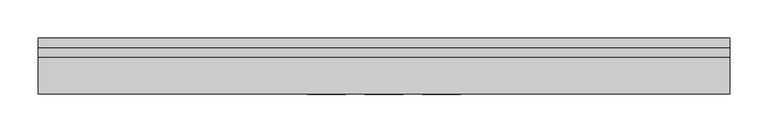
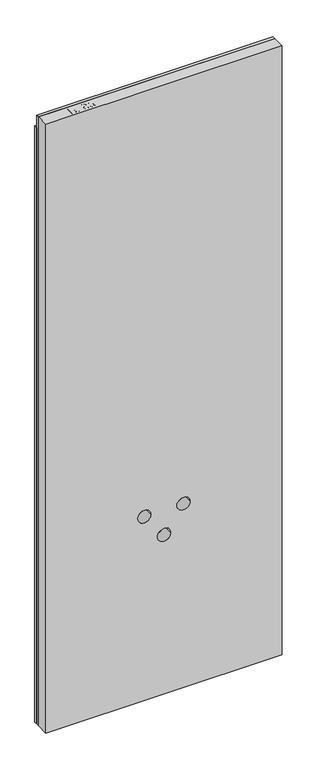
"""IFC4 building model written with IfcOpenShell, lengths in millimetres: proxy geometry, ParedeLavatório_Blufab : Parede Lavatório - Largura 90 cm."""

from ifc_helpers import new_model, si_unit, point, frame, frame_2d, origin, origin_with_axes, place, context, project, spatial, polyline, circle_curve, trimmed, segment, composite_curve, outline, extrude, source, transform, mapped, element, save


def generic_models_d659e27f(model_context):
    return source(origin(), model_context, "Body", "SweptSolid", [
        extrude(outline(polyline([(2450.0, 0.0), (0.0, 0.0), (0.0, 900.0), (2450.0, 900.0), (2450.0, 0.0)]), holes=[composite_curve([segment(trimmed(circle_curve(frame_2d((640.0, 450.0)), 25.0), [point((640.0, 425.0))], [point((640.0, 475.0))], True, "CARTESIAN"), True, "CONTINUOUS"), segment(trimmed(circle_curve(frame_2d((640.0, 450.0)), 25.0), [point((640.0, 475.0))], [point((640.0, 425.0))], True, "CARTESIAN"), True, "CONTINUOUS")], self_intersect=False), composite_curve([segment(trimmed(circle_curve(frame_2d((740.0, 525.0)), 25.0), [point((740.0, 500.0))], [point((740.0, 550.0))], True, "CARTESIAN"), True, "CONTINUOUS"), segment(trimmed(circle_curve(frame_2d((740.0, 525.0)), 25.0), [point((740.0, 550.0))], [point((740.0, 500.0))], True, "CARTESIAN"), True, "CONTINUOUS")], self_intersect=False), composite_curve([segment(trimmed(circle_curve(frame_2d((740.0, 375.0)), 25.0), [point((740.0, 350.0))], [point((740.0, 400.0))], True, "CARTESIAN"), True, "CONTINUOUS"), segment(trimmed(circle_curve(frame_2d((740.0, 375.0)), 25.0), [point((740.0, 400.0))], [point((740.0, 350.0))], True, "CARTESIAN"), True, "CONTINUOUS")], self_intersect=False)]), frame((0.0, -73.0, 0.0), z_axis=(0.0, 1.0, 0.0), x_axis=(0.0, 0.0, 1.0)), (0.0, 0.0, 1.0), 47.9873197),
        extrude(outline(polyline([(2450.0, 0.0), (0.0, 0.0), (0.0, 900.0), (2450.0, 900.0), (2450.0, 0.0)]), holes=[composite_curve([segment(trimmed(circle_curve(frame_2d((640.0, 450.0)), 25.0), [point((640.0, 425.0))], [point((640.0, 475.0))], True, "CARTESIAN"), True, "CONTINUOUS"), segment(trimmed(circle_curve(frame_2d((640.0, 450.0)), 25.0), [point((640.0, 475.0))], [point((640.0, 425.0))], True, "CARTESIAN"), True, "CONTINUOUS")], self_intersect=False), composite_curve([segment(trimmed(circle_curve(frame_2d((740.0, 525.0)), 25.0), [point((740.0, 500.0))], [point((740.0, 550.0))], True, "CARTESIAN"), True, "CONTINUOUS"), segment(trimmed(circle_curve(frame_2d((740.0, 525.0)), 25.0), [point((740.0, 550.0))], [point((740.0, 500.0))], True, "CARTESIAN"), True, "CONTINUOUS")], self_intersect=False), composite_curve([segment(trimmed(circle_curve(frame_2d((740.0, 375.0)), 25.0), [point((740.0, 350.0))], [point((740.0, 400.0))], True, "CARTESIAN"), True, "CONTINUOUS"), segment(trimmed(circle_curve(frame_2d((740.0, 375.0)), 25.0), [point((740.0, 400.0))], [point((740.0, 350.0))], True, "CARTESIAN"), True, "CONTINUOUS")], self_intersect=False)]), frame((0.0, -25.0126803, 0.0), z_axis=(0.0, 1.0, 0.0), x_axis=(0.0, 0.0, 1.0)), (0.0, 0.0, 1.0), 12.5),
        extrude(outline(polyline([(2400.0, 0.0), (0.0, 0.0), (0.0, 900.0), (2400.0, 900.0), (2400.0, 0.0)]), holes=[composite_curve([segment(trimmed(circle_curve(frame_2d((640.0, 450.0)), 25.0), [point((640.0, 425.0))], [point((640.0, 475.0))], True, "CARTESIAN"), True, "CONTINUOUS"), segment(trimmed(circle_curve(frame_2d((640.0, 450.0)), 25.0), [point((640.0, 475.0))], [point((640.0, 425.0))], True, "CARTESIAN"), True, "CONTINUOUS")], self_intersect=False), composite_curve([segment(trimmed(circle_curve(frame_2d((740.0, 525.0)), 25.0), [point((740.0, 500.0))], [point((740.0, 550.0))], True, "CARTESIAN"), True, "CONTINUOUS"), segment(trimmed(circle_curve(frame_2d((740.0, 525.0)), 25.0), [point((740.0, 550.0))], [point((740.0, 500.0))], True, "CARTESIAN"), True, "CONTINUOUS")], self_intersect=False), composite_curve([segment(trimmed(circle_curve(frame_2d((740.0, 375.0)), 25.0), [point((740.0, 350.0))], [point((740.0, 400.0))], True, "CARTESIAN"), True, "CONTINUOUS"), segment(trimmed(circle_curve(frame_2d((740.0, 375.0)), 25.0), [point((740.0, 400.0))], [point((740.0, 350.0))], True, "CARTESIAN"), True, "CONTINUOUS")], self_intersect=False)]), frame((0.0, -12.5, 0.0), z_axis=(0.0, 1.0, 0.0), x_axis=(0.0, 0.0, 1.0)), (0.0, 0.0, 1.0), 12.5),
        extrude(outline(polyline([(104.7946604, -34.0997617), (108.5617721, -34.0997617), (108.5617721, -46.3428745), (116.2210752, -46.3428745), (124.9729879, -49.0063401), (127.3973302, -55.5178514), (126.4996981, -59.6270933), (124.1268593, -62.5407187), (120.4664334, -63.9497068), (115.9635578, -64.2366547), (104.7946604, -64.2366547), (104.7946604, -34.0997617)]), holes=[polyline([(108.5617721, -50.1099861), (108.5617721, -60.4695431), (116.3535127, -60.4695431), (120.1206244, -60.2120257), (122.6626889, -58.5050532), (123.6302186, -55.3854139), (121.9894649, -51.4932224), (116.4418044, -50.1099861), (108.5617721, -50.1099861)])]), origin_with_axes(), (0.0, 0.0, 1.0), 2450.0),
        extrude(outline(polyline([(132.5771087, -34.0997617), (151.4126669, -34.0997617), (151.4126669, -37.8668733), (136.3442203, -37.8668733), (136.3442203, -64.2366547), (132.5771087, -64.2366547), (132.5771087, -34.0997617)])), origin_with_axes(), (0.0, 0.0, 1.0), 2450.0),
        extrude(outline(polyline([(154.7088895, -41.6339849), (157.4091434, -35.7294789), (163.199606, -33.6288727), (169.0158203, -35.4094216), (172.7571802, -40.5928789), (174.0153366, -49.7421041), (172.7535014, -58.1739594), (169.0599662, -62.6621198), (163.6925679, -64.2366547), (156.9345756, -61.4775398), (154.2380006, -54.1934763), (156.8094957, -47.1374996), (163.1039567, -44.4593187), (167.2352715, -45.555607), (170.2702979, -47.6746073), (169.7258326, -43.3041692), (168.4934279, -40.0300194), (166.4259311, -38.1133543), (163.3761893, -37.3959844), (160.1682583, -38.5106668), (158.4760012, -42.1048739), (154.7088895, -41.6339849)]), holes=[polyline([(170.248225, -54.2817679), (168.5449314, -49.8340746), (164.200245, -48.2264303), (159.6752965, -49.8340746), (158.0051122, -54.0095353), (159.7709458, -58.6706001), (164.303252, -60.4695431), (168.6221866, -58.7993588), (170.248225, -54.2817679)])]), origin_with_axes(), (0.0, 0.0, 1.0), 2450.0),
        extrude(outline(polyline([(177.3115593, -48.9254061), (180.3134764, -36.4983523), (187.2002274, -33.6288727), (192.7147785, -35.2806629), (195.992607, -40.2912157), (197.0888954, -48.9254061), (196.4046349, -56.0071345), (194.6388013, -60.4658643), (191.600096, -63.2654463), (187.2002274, -64.2366547), (181.7077492, -62.595901), (178.4188841, -57.5963847), (177.3115593, -48.9254061)]), holes=[polyline([(181.078671, -48.9327637), (182.9033656, -58.4535498), (187.1560815, -60.4695431), (191.6148113, -58.1813171), (193.3217838, -48.9327637), (191.5559502, -39.5848822), (187.2002274, -37.3959844), (182.8445045, -39.5775246), (181.078671, -48.9327637)])]), origin_with_axes(), (0.0, 0.0, 1.0), 2450.0),
    ])


if __name__ == "__main__":
    model = new_model("IFC4")
    model_context = context("Model", 3, world=origin())
    ifc_project = project(units=[si_unit("LENGTHUNIT", "METRE", prefix="MILLI")], contexts=[model_context])
    site = spatial("IfcSite", under=ifc_project)
    building = spatial("IfcBuilding", under=site)
    placement = place(None, origin())
    generic_models_shape = generic_models_d659e27f(model_context)
    element("IfcBuildingElementProxy", 1, Name="ParedeLavatório_Blufab : Parede Lavatório - Largura 90 cm", ObjectType="ParedeLavatório_Blufab : Parede Lavatório - Largura 90 cm", at=placement, inside=building, context=model_context, shape_type="MappedRepresentation", body=[
        mapped(generic_models_shape, transform((0.0, 0.0, 0.0), x_axis=(1.0, 0.0, 0.0), y_axis=(0.0, 1.0, 0.0), z_axis=(0.0, 0.0, 1.0))),
    ])
    save(model, "model.ifc")
